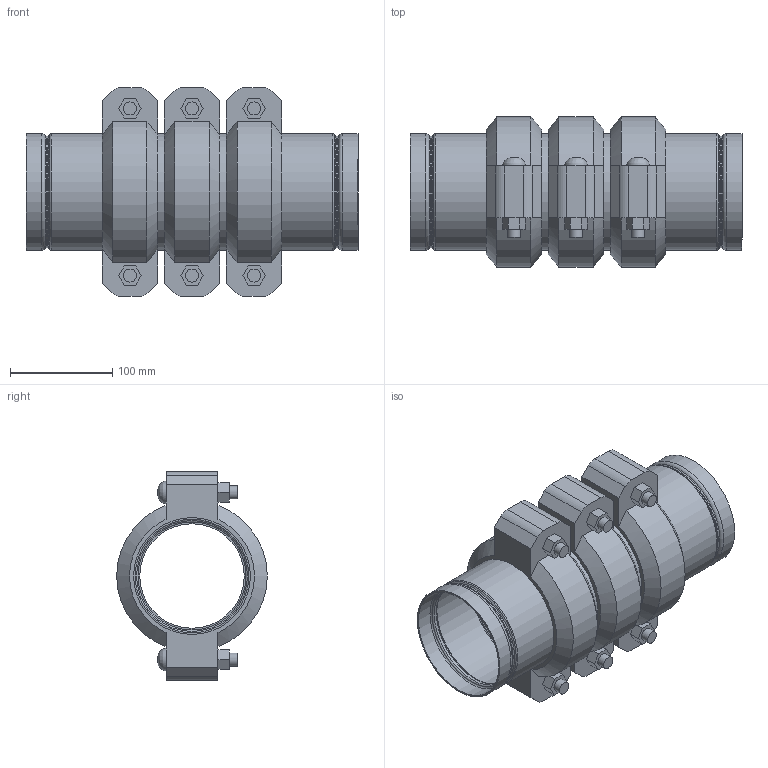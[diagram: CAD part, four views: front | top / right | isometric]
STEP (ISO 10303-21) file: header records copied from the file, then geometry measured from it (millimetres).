
FILE_DESCRIPTION(/* description */ ('VIC STRENGTHIN 100 EXPANSION JOINT 3 COUPLINGS COMPRESSED STYLE E155 (ST1)','CAx-IF Rec.Pracs.---Representation and Presentation of Product Manufacturing Information (PMI)---4.0---2014-10-13'),/* implementation_level */ '2;1');
FILE_NAME(/* name */ 'C:\Users\Vjadhav\AppData\Roaming\Autodesk\ApplicationPlugins\Victaulic.Temp\A21\Victaulic_SS-StrengThin 100_Expansion Joint_Compressed_3 Couplings_Style E155 (ST1)_4 (100).stp',/* time_stamp */ '2021-07-23T12:30:22+05:00',/* author */ ('kkamble'),/* organization */ ('Victaulic'),/* preprocessor_version */ 'ST-DEVELOPER v17.2',/* originating_system */ 'Autodesk Inventor 2019',/* authorisation */ '');
FILE_SCHEMA (('AP242_MANAGED_MODEL_BASED_3D_ENGINEERING_MIM_LF { 1 0 10303 442 1 1 4 }'));
Length unit declared in the file: inch
Products named in the file (4): E155-04.0; E494G-04.0; Nipple-04.0; 075-04.0
Assembly tree (7 placements, depth 2):
  E155-04.0
    E494G-04.0  x2
    Nipple-04.0  x2
    075-04.0  x3
Bounding box: 324.87 x 147.32 x 203.96 mm (x, y, z)
Volume: 1782570.3 mm3; surface area: 475957.2 mm2
Topology: 7 solids, 13 shells, 251 faces, 663 edges, 472 vertices
Faces by surface type: plane 126, cylinder 71, torus 32, cone 16, bspline 6
Full cylindrical faces by diameter (mm): 12.7 x12, 14.605 x6, 102.26 x2, 105.639 x2, 106.883 x2, 108.839 x2, 110.084 x6, 111.1 x6, 114.3 x15
Entity records: 3615 total; most frequent: DIRECTION 639, CARTESIAN_POINT 639, ORIENTED_EDGE 536, AXIS2_PLACEMENT_3D 271, EDGE_CURVE 268, VERTEX_POINT 193, CIRCLE 163, EDGE_LOOP 123
